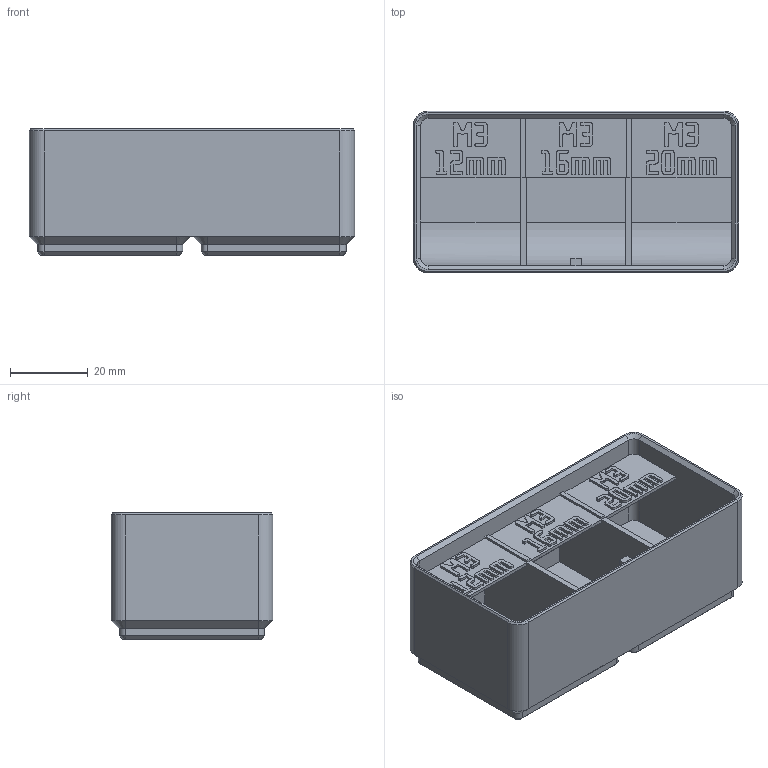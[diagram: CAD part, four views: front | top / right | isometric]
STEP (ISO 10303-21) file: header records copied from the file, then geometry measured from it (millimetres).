
FILE_DESCRIPTION(('Open CASCADE Model'),'2;1');
FILE_NAME('Open CASCADE Shape Model','2026-11-03T16:31:52',('Author'),( 'Open CASCADE'),'Open CASCADE STEP processor 8.0','build123d', 'Unknown');
FILE_SCHEMA(('AUTOMOTIVE_DESIGN { 1 0 10303 214 1 1 1 1 }'));
Products named in the file (1): COMPOUND
Bounding box: 83.5 x 41.5 x 32.4 mm (x, y, z)
Volume: 43330.5 mm3; surface area: 24282 mm2
Topology: 1 solids, 1 shells, 1904 faces, 5581 edges, 3700 vertices
Faces by surface type: plane 1859, cone 24, cylinder 21
Entity records: 130948 total; most frequent: CARTESIAN_POINT 26412, DIRECTION 16873, LINE 12919, VECTOR 12919, ORIENTED_EDGE 11162, PCURVE 11162, DEFINITIONAL_REPRESENTATION 11162, EDGE_CURVE 5581
